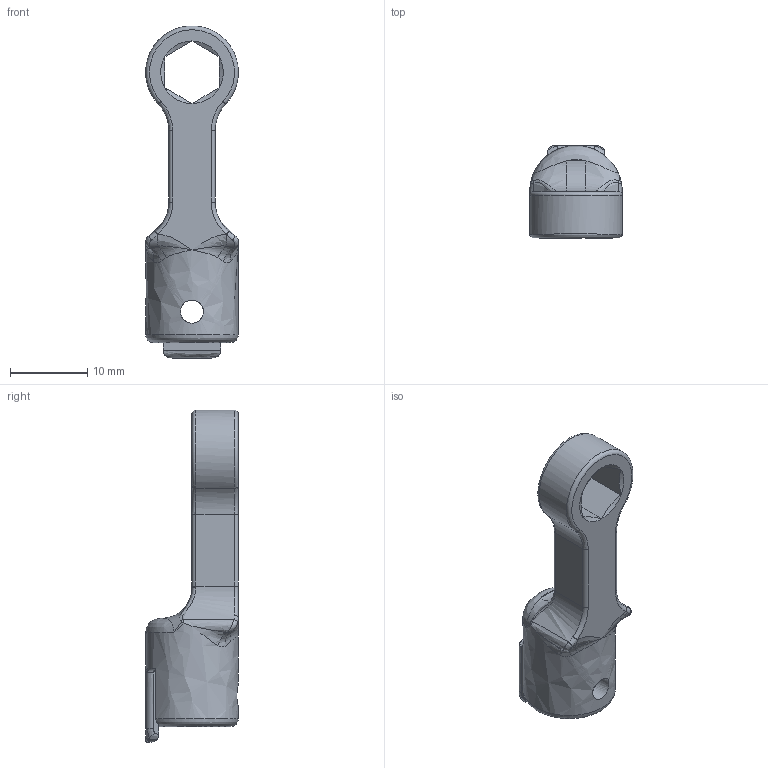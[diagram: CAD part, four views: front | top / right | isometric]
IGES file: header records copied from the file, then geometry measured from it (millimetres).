
Global section: file name: RH8DX7; native system: Autodesk Inventor 2016; preprocessor: unknown; author: Q600; date: 20151110.153633; units: millimetre
Bounding box: 12 x 12 x 42.99 mm (x, y, z)
Volume: 2093.4 mm3; surface area: 1815.5 mm2
Topology: 1 solids, 1 shells, 97 faces, 255 edges, 149 vertices
Faces by surface type: bspline 97
